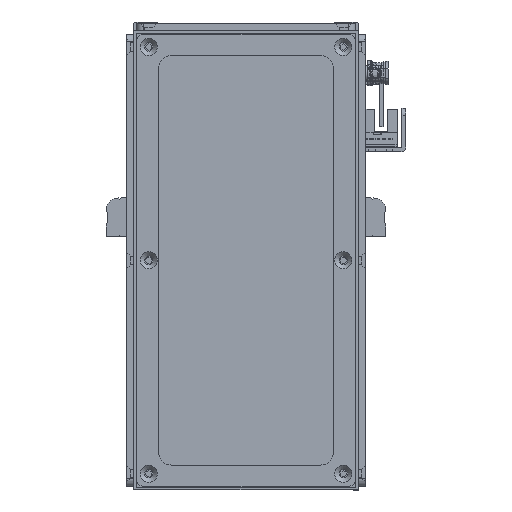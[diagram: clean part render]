
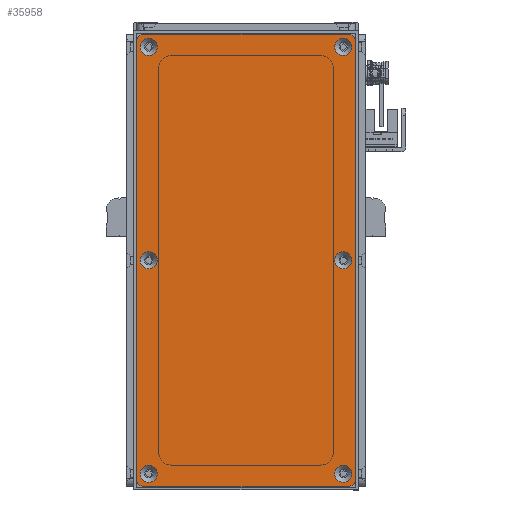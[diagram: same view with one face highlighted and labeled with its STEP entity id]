
A CAD part, front view. The second image highlights one B-rep face of the part: STEP entity #35958.
In plain terms, the highlighted planar face has unit normal (0, -1, 0) as drawn and (0, 0, 1) by its records, which use the part's own axes.
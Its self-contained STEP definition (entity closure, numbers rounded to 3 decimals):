
#4761=FACE_BOUND('',#8586,.T.);
#4762=FACE_BOUND('',#8587,.T.);
#4763=FACE_BOUND('',#8588,.T.);
#4764=FACE_BOUND('',#8589,.T.);
#4765=FACE_BOUND('',#8590,.T.);
#4766=FACE_BOUND('',#8591,.T.);
#6434=FACE_OUTER_BOUND('',#8585,.T.);
#8585=EDGE_LOOP('',(#32811,#32812,#32813,#32814,#32815,#32816,#32817,#32818));
#8586=EDGE_LOOP('',(#32819));
#8587=EDGE_LOOP('',(#32820));
#8588=EDGE_LOOP('',(#32821));
#8589=EDGE_LOOP('',(#32822));
#8590=EDGE_LOOP('',(#32823));
#8591=EDGE_LOOP('',(#32824));
#10335=CIRCLE('',#40523,3.45);
#10338=CIRCLE('',#40528,3.45);
#10341=CIRCLE('',#40533,3.45);
#10344=CIRCLE('',#40538,3.45);
#10347=CIRCLE('',#40543,3.45);
#10350=CIRCLE('',#40548,3.45);
#10357=CIRCLE('',#40558,3.);
#10358=CIRCLE('',#40561,3.);
#10359=CIRCLE('',#40564,3.);
#10360=CIRCLE('',#40567,3.);
#13089=LINE('',#63189,#15931);
#13092=LINE('',#63197,#15934);
#13095=LINE('',#63205,#15937);
#13098=LINE('',#63212,#15940);
#15931=VECTOR('',#50414,10.);
#15934=VECTOR('',#50423,10.);
#15937=VECTOR('',#50432,10.);
#15940=VECTOR('',#50441,10.);
#19059=VERTEX_POINT('',#63105);
#19062=VERTEX_POINT('',#63115);
#19065=VERTEX_POINT('',#63125);
#19068=VERTEX_POINT('',#63135);
#19071=VERTEX_POINT('',#63145);
#19074=VERTEX_POINT('',#63155);
#19085=VERTEX_POINT('',#63182);
#19086=VERTEX_POINT('',#63184);
#19087=VERTEX_POINT('',#63188);
#19088=VERTEX_POINT('',#63192);
#19089=VERTEX_POINT('',#63196);
#19090=VERTEX_POINT('',#63200);
#19091=VERTEX_POINT('',#63204);
#19092=VERTEX_POINT('',#63208);
#23649=EDGE_CURVE('',#19059,#19059,#10335,.T.);
#23654=EDGE_CURVE('',#19062,#19062,#10338,.T.);
#23659=EDGE_CURVE('',#19065,#19065,#10341,.T.);
#23664=EDGE_CURVE('',#19068,#19068,#10344,.T.);
#23669=EDGE_CURVE('',#19071,#19071,#10347,.T.);
#23674=EDGE_CURVE('',#19074,#19074,#10350,.T.);
#23688=EDGE_CURVE('',#19086,#19085,#10357,.T.);
#23690=EDGE_CURVE('',#19087,#19086,#13089,.T.);
#23692=EDGE_CURVE('',#19088,#19087,#10358,.T.);
#23694=EDGE_CURVE('',#19089,#19088,#13092,.T.);
#23696=EDGE_CURVE('',#19090,#19089,#10359,.T.);
#23698=EDGE_CURVE('',#19091,#19090,#13095,.T.);
#23700=EDGE_CURVE('',#19092,#19091,#10360,.T.);
#23702=EDGE_CURVE('',#19085,#19092,#13098,.T.);
#32811=ORIENTED_EDGE('',*,*,#23702,.T.);
#32812=ORIENTED_EDGE('',*,*,#23700,.T.);
#32813=ORIENTED_EDGE('',*,*,#23698,.T.);
#32814=ORIENTED_EDGE('',*,*,#23696,.T.);
#32815=ORIENTED_EDGE('',*,*,#23694,.T.);
#32816=ORIENTED_EDGE('',*,*,#23692,.T.);
#32817=ORIENTED_EDGE('',*,*,#23690,.T.);
#32818=ORIENTED_EDGE('',*,*,#23688,.T.);
#32819=ORIENTED_EDGE('',*,*,#23649,.T.);
#32820=ORIENTED_EDGE('',*,*,#23654,.T.);
#32821=ORIENTED_EDGE('',*,*,#23659,.T.);
#32822=ORIENTED_EDGE('',*,*,#23664,.T.);
#32823=ORIENTED_EDGE('',*,*,#23669,.T.);
#32824=ORIENTED_EDGE('',*,*,#23674,.T.);
#34278=PLANE('',#40569);
#35958=ADVANCED_FACE('',(#6434,#4761,#4762,#4763,#4764,#4765,#4766),#34278,
 .T.);
#40523=AXIS2_PLACEMENT_3D('',#63106,#50322,#50323);
#40528=AXIS2_PLACEMENT_3D('',#63116,#50334,#50335);
#40533=AXIS2_PLACEMENT_3D('',#63126,#50346,#50347);
#40538=AXIS2_PLACEMENT_3D('',#63136,#50358,#50359);
#40543=AXIS2_PLACEMENT_3D('',#63146,#50370,#50371);
#40548=AXIS2_PLACEMENT_3D('',#63156,#50382,#50383);
#40558=AXIS2_PLACEMENT_3D('',#63185,#50409,#50410);
#40561=AXIS2_PLACEMENT_3D('',#63193,#50418,#50419);
#40564=AXIS2_PLACEMENT_3D('',#63201,#50427,#50428);
#40567=AXIS2_PLACEMENT_3D('',#63209,#50436,#50437);
#40569=AXIS2_PLACEMENT_3D('',#63213,#50442,#50443);
#50322=DIRECTION('center_axis',(0.,0.,-1.));
#50323=DIRECTION('ref_axis',(1.,0.,0.));
#50334=DIRECTION('center_axis',(0.,0.,-1.));
#50335=DIRECTION('ref_axis',(1.,0.,0.));
#50346=DIRECTION('center_axis',(0.,0.,-1.));
#50347=DIRECTION('ref_axis',(1.,0.,0.));
#50358=DIRECTION('center_axis',(0.,0.,-1.));
#50359=DIRECTION('ref_axis',(1.,0.,0.));
#50370=DIRECTION('center_axis',(0.,0.,-1.));
#50371=DIRECTION('ref_axis',(1.,0.,0.));
#50382=DIRECTION('center_axis',(0.,0.,-1.));
#50383=DIRECTION('ref_axis',(1.,0.,0.));
#50409=DIRECTION('center_axis',(0.,0.,1.));
#50410=DIRECTION('ref_axis',(0.,1.,0.));
#50414=DIRECTION('',(-1.,0.,0.));
#50418=DIRECTION('center_axis',(0.,0.,1.));
#50419=DIRECTION('ref_axis',(1.,0.,0.));
#50423=DIRECTION('',(0.,1.,0.));
#50427=DIRECTION('center_axis',(0.,0.,1.));
#50428=DIRECTION('ref_axis',(0.,-1.,0.));
#50432=DIRECTION('',(1.,0.,0.));
#50436=DIRECTION('center_axis',(0.,0.,1.));
#50437=DIRECTION('ref_axis',(-1.,0.,0.));
#50441=DIRECTION('',(0.,-1.,0.));
#50442=DIRECTION('center_axis',(0.,0.,1.));
#50443=DIRECTION('ref_axis',(1.,0.,0.));
#63105=CARTESIAN_POINT('',(-3.45,39.,1.5));
#63106=CARTESIAN_POINT('Origin',(0.,39.,1.5));
#63115=CARTESIAN_POINT('',(82.05,-39.,1.5));
#63116=CARTESIAN_POINT('Origin',(85.5,-39.,1.5));
#63125=CARTESIAN_POINT('',(-88.95,39.,1.5));
#63126=CARTESIAN_POINT('Origin',(-85.5,39.,1.5));
#63135=CARTESIAN_POINT('',(82.05,39.,1.5));
#63136=CARTESIAN_POINT('Origin',(85.5,39.,1.5));
#63145=CARTESIAN_POINT('',(-88.95,-39.,1.5));
#63146=CARTESIAN_POINT('Origin',(-85.5,-39.,1.5));
#63155=CARTESIAN_POINT('',(-3.45,-39.,1.5));
#63156=CARTESIAN_POINT('Origin',(0.,-39.,1.5));
#63182=CARTESIAN_POINT('',(-90.5,41.,1.5));
#63184=CARTESIAN_POINT('',(-87.5,44.,1.5));
#63185=CARTESIAN_POINT('Origin',(-87.5,41.,1.5));
#63188=CARTESIAN_POINT('',(87.5,44.,1.5));
#63189=CARTESIAN_POINT('',(87.5,44.,1.5));
#63192=CARTESIAN_POINT('',(90.5,41.,1.5));
#63193=CARTESIAN_POINT('Origin',(87.5,41.,1.5));
#63196=CARTESIAN_POINT('',(90.5,-41.,1.5));
#63197=CARTESIAN_POINT('',(90.5,-41.,1.5));
#63200=CARTESIAN_POINT('',(87.5,-44.,1.5));
#63201=CARTESIAN_POINT('Origin',(87.5,-41.,1.5));
#63204=CARTESIAN_POINT('',(-87.5,-44.,1.5));
#63205=CARTESIAN_POINT('',(-87.5,-44.,1.5));
#63208=CARTESIAN_POINT('',(-90.5,-41.,1.5));
#63209=CARTESIAN_POINT('Origin',(-87.5,-41.,1.5));
#63212=CARTESIAN_POINT('',(-90.5,41.,1.5));
#63213=CARTESIAN_POINT('Origin',(0.,0.,
1.5));
